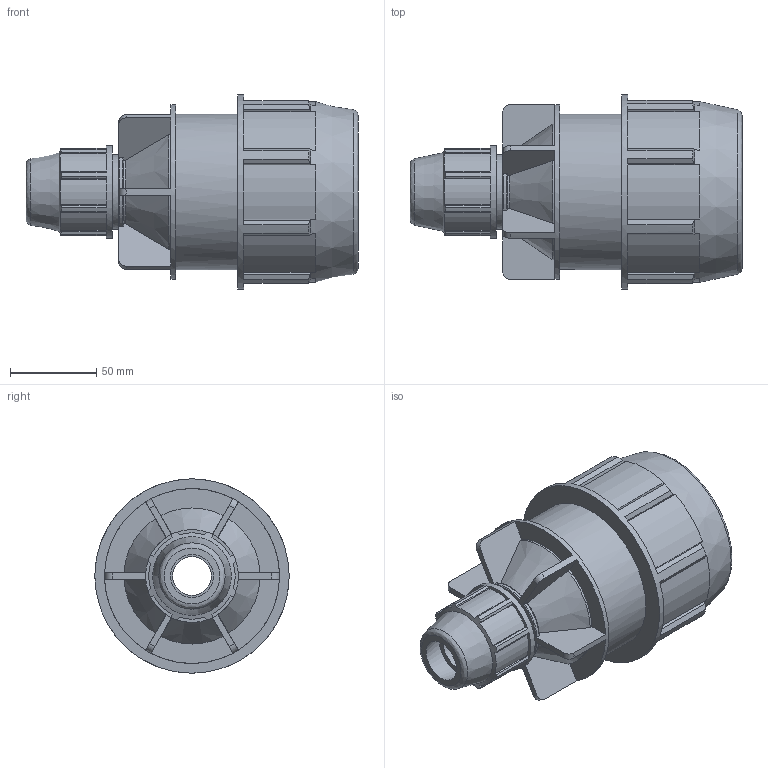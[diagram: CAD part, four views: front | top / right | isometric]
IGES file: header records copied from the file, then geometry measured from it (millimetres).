
Global section: file name: 071100063025_181100063025_0711060630250A.ipt; native system: Autodesk Inventor 2015; preprocessor: unknown; author: KIM; date: 20170606.133330; units: millimetre
Bounding box: 193 x 113 x 113 mm (x, y, z)
Volume: 644145.9 mm3; surface area: 108158 mm2
Topology: 1 solids, 1 shells, 225 faces, 663 edges, 447 vertices
Faces by surface type: plane 143, cylinder 45, revolution 20, cone 17
Full cylindrical faces by diameter (mm): 43.2 x1, 54 x1, 90.4 x1, 101.7 x1, 113 x1
